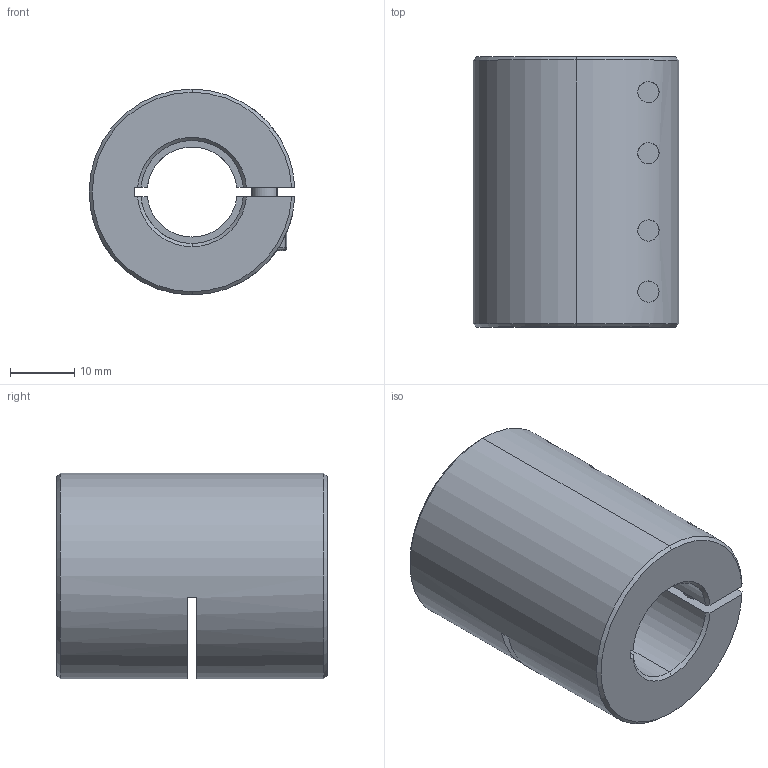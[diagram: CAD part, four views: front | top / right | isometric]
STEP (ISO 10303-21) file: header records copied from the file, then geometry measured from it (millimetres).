
FILE_DESCRIPTION (( 'STEP AP203' ), '1' );
FILE_NAME ('LL-B-D32L42-14-16.STEP', '2021-11-05T07:53:21', ( '' ), ( '' ), 'SwSTEP 2.0', 'SolidWorks 2018', '' );
FILE_SCHEMA (( 'CONFIG_CONTROL_DESIGN' ));
Length unit declared in the file: millimetre
Products named in the file (1): LL-B-D32L42-14-16
Bounding box: 31.98 x 42 x 32 mm (x, y, z)
Volume: 24301.4 mm3; surface area: 10273.3 mm2
Topology: 1 solids, 1 shells, 192 faces, 489 edges, 307 vertices
Faces by surface type: plane 88, cylinder 76, cone 20, torus 8
Entity records: 6343 total; most frequent: CARTESIAN_POINT 1553, DIRECTION 1032, ORIENTED_EDGE 962, EDGE_CURVE 481, AXIS2_PLACEMENT_3D 402, VERTEX_POINT 307, VECTOR 228, LINE 228
